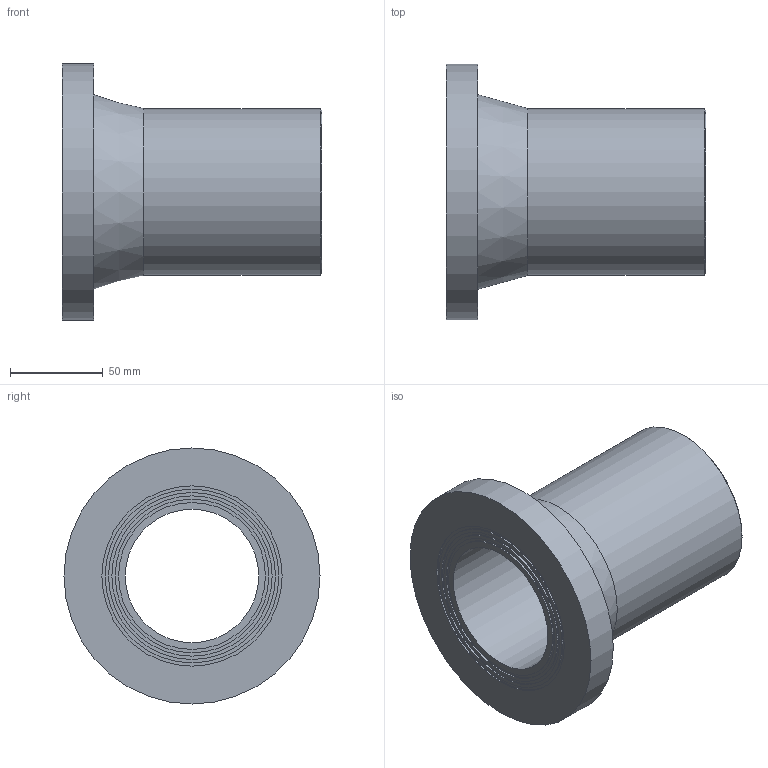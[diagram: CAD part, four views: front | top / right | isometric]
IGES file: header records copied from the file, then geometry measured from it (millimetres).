
Global section: file name: 490207090.ipt; native system: Autodesk Inventor 2015; preprocessor: unknown; author: Кирилл,,11,0; organization: 20170718.095537; date: 20190331.185817; units: millimetre
Bounding box: 140 x 138 x 138 mm (x, y, z)
Volume: 495510.5 mm3; surface area: 95584.3 mm2
Topology: 1 solids, 1 shells, 20 faces, 33 edges, 22 vertices
Faces by surface type: plane 9, cylinder 5, revolution 4, cone 2
Full cylindrical faces by diameter (mm): 79.2 x1, 86.4 x1, 90 x1, 93.6 x1, 138 x1
